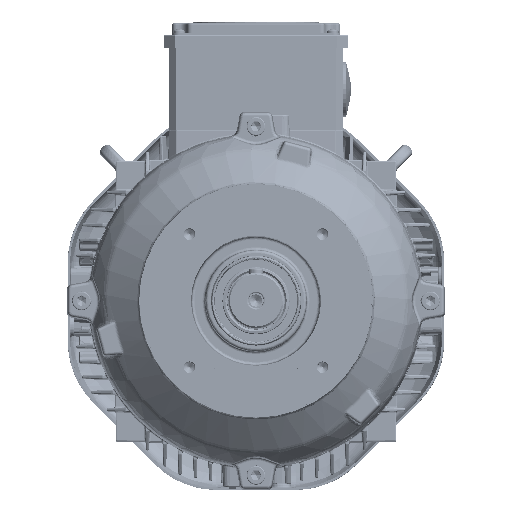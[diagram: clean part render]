
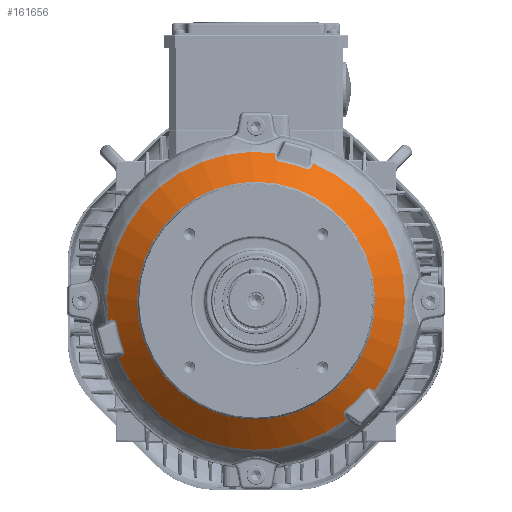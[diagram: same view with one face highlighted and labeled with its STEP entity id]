
A CAD part, top view. The second image highlights one B-rep face of the part: STEP entity #161656.
In plain terms, the highlighted conical face has half-angle 50 degrees and reference radius 102.868 mm.
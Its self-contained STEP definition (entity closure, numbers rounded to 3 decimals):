
#41842=B_SPLINE_CURVE_WITH_KNOTS('',3,(#339026,#339027,#339028,#339029,
#339030,#339031,#339032,#339033),.UNSPECIFIED.,.F.,.F.,(4,2,2,4),(0.,0.5,
0.75,1.),.UNSPECIFIED.);
#41843=B_SPLINE_CURVE_WITH_KNOTS('',3,(#339037,#339038,#339039,#339040,
#339041,#339042,#339043,#339044),.UNSPECIFIED.,.F.,.F.,(4,2,2,4),(0.,0.25,
0.5,1.),.UNSPECIFIED.);
#41844=B_SPLINE_CURVE_WITH_KNOTS('',3,(#339048,#339049,#339050,#339051,
#339052,#339053,#339054,#339055),.UNSPECIFIED.,.F.,.F.,(4,2,2,4),(0.,0.5,
0.75,1.),.UNSPECIFIED.);
#41845=B_SPLINE_CURVE_WITH_KNOTS('',3,(#339059,#339060,#339061,#339062,
#339063,#339064,#339065,#339066),.UNSPECIFIED.,.F.,.F.,(4,2,2,4),(0.,0.25,
0.5,1.),.UNSPECIFIED.);
#41846=B_SPLINE_CURVE_WITH_KNOTS('',3,(#339070,#339071,#339072,#339073,
#339074,#339075,#339076,#339077),.UNSPECIFIED.,.F.,.F.,(4,2,2,4),(0.,0.5,
0.75,1.),.UNSPECIFIED.);
#41847=B_SPLINE_CURVE_WITH_KNOTS('',3,(#339081,#339082,#339083,#339084,
#339085,#339086,#339087,#339088),.UNSPECIFIED.,.F.,.F.,(4,2,2,4),(0.,0.25,
0.5,1.),.UNSPECIFIED.);
#44855=CONICAL_SURFACE('',#209033,102.868,50.);
#56476=EDGE_LOOP('',(#81650,#81651,#81652,#81653,#81654,#81655,#81656,#81657,
#81658,#81659,#81660,#81661));
#56477=EDGE_LOOP('',(#81662));
#81650=ORIENTED_EDGE('',*,*,#134184,.T.);
#81651=ORIENTED_EDGE('',*,*,#134185,.T.);
#81652=ORIENTED_EDGE('',*,*,#134186,.T.);
#81653=ORIENTED_EDGE('',*,*,#134187,.T.);
#81654=ORIENTED_EDGE('',*,*,#134188,.T.);
#81655=ORIENTED_EDGE('',*,*,#134189,.T.);
#81656=ORIENTED_EDGE('',*,*,#134190,.T.);
#81657=ORIENTED_EDGE('',*,*,#134191,.T.);
#81658=ORIENTED_EDGE('',*,*,#134192,.T.);
#81659=ORIENTED_EDGE('',*,*,#134193,.T.);
#81660=ORIENTED_EDGE('',*,*,#134194,.T.);
#81661=ORIENTED_EDGE('',*,*,#134195,.T.);
#81662=ORIENTED_EDGE('',*,*,#134183,.F.);
#134183=EDGE_CURVE('',#179378,#179378,#195483,.T.);
#134184=EDGE_CURVE('',#179379,#179380,#195484,.T.);
#134185=EDGE_CURVE('',#179380,#179381,#41842,.T.);
#134186=EDGE_CURVE('',#179381,#179382,#195485,.T.);
#134187=EDGE_CURVE('',#179382,#179383,#41843,.T.);
#134188=EDGE_CURVE('',#179383,#179384,#195486,.T.);
#134189=EDGE_CURVE('',#179384,#179385,#41844,.T.);
#134190=EDGE_CURVE('',#179385,#179386,#195487,.T.);
#134191=EDGE_CURVE('',#179386,#179387,#41845,.T.);
#134192=EDGE_CURVE('',#179387,#179388,#195488,.T.);
#134193=EDGE_CURVE('',#179388,#179389,#41846,.T.);
#134194=EDGE_CURVE('',#179389,#179390,#195489,.T.);
#134195=EDGE_CURVE('',#179390,#179379,#41847,.T.);
#161656=ADVANCED_FACE('',(#173534,#173535),#44855,.T.);
#173534=FACE_BOUND('',#56476,.T.);
#173535=FACE_BOUND('',#56477,.T.);
#179378=VERTEX_POINT('',#339021);
#179379=VERTEX_POINT('',#339024);
#179380=VERTEX_POINT('',#339025);
#179381=VERTEX_POINT('',#339034);
#179382=VERTEX_POINT('',#339036);
#179383=VERTEX_POINT('',#339045);
#179384=VERTEX_POINT('',#339047);
#179385=VERTEX_POINT('',#339056);
#179386=VERTEX_POINT('',#339058);
#179387=VERTEX_POINT('',#339067);
#179388=VERTEX_POINT('',#339069);
#179389=VERTEX_POINT('',#339078);
#179390=VERTEX_POINT('',#339080);
#195483=CIRCLE('',#209025,82.239);
#195484=CIRCLE('',#209027,102.868);
#195485=CIRCLE('',#209028,97.45);
#195486=CIRCLE('',#209029,102.868);
#195487=CIRCLE('',#209030,97.45);
#195488=CIRCLE('',#209031,102.868);
#195489=CIRCLE('',#209032,97.45);
#209025=AXIS2_PLACEMENT_3D('',#339020,#238316,#238317);
#209027=AXIS2_PLACEMENT_3D('',#339023,#238320,#238321);
#209028=AXIS2_PLACEMENT_3D('',#339035,#238322,#238323);
#209029=AXIS2_PLACEMENT_3D('',#339046,#238324,#238325);
#209030=AXIS2_PLACEMENT_3D('',#339057,#238326,#238327);
#209031=AXIS2_PLACEMENT_3D('',#339068,#238328,#238329);
#209032=AXIS2_PLACEMENT_3D('',#339079,#238330,#238331);
#209033=AXIS2_PLACEMENT_3D('',#339089,#238332,#238333);
#238316=DIRECTION('',(0.,0.,1.));
#238317=DIRECTION('',(-1.,0.,0.));
#238320=DIRECTION('',(0.,0.,1.));
#238321=DIRECTION('',(-1.,0.,0.));
#238322=DIRECTION('',(0.,0.,1.));
#238323=DIRECTION('',(-1.,0.,0.));
#238324=DIRECTION('',(0.,0.,1.));
#238325=DIRECTION('',(-1.,0.,0.));
#238326=DIRECTION('',(0.,0.,1.));
#238327=DIRECTION('',(0.,-1.,0.));
#238328=DIRECTION('',(0.,0.,1.));
#238329=DIRECTION('',(-1.,0.,0.));
#238330=DIRECTION('',(0.,0.,1.));
#238331=DIRECTION('',(0.,-1.,0.));
#238332=DIRECTION('',(0.,0.,-1.));
#238333=DIRECTION('',(1.,0.,0.));
#339020=CARTESIAN_POINT('',(-0.001,-0.005,55.961));
#339021=CARTESIAN_POINT('',(-82.24,-0.005,55.961));
#339023=CARTESIAN_POINT('',(-0.001,-0.005,38.651));
#339024=CARTESIAN_POINT('',(13.29,102.001,38.646));
#339025=CARTESIAN_POINT('',(-102.007,-13.296,38.652));
#339026=CARTESIAN_POINT('',(-102.007,-13.296,38.652));
#339027=CARTESIAN_POINT('',(-100.922,-12.89,39.6));
#339028=CARTESIAN_POINT('',(-99.767,-12.721,40.579));
#339029=CARTESIAN_POINT('',(-98.062,-13.225,41.942));
#339030=CARTESIAN_POINT('',(-97.498,-13.535,42.377));
#339031=CARTESIAN_POINT('',(-96.583,-14.538,43.016));
#339032=CARTESIAN_POINT('',(-96.258,-15.233,43.198));
#339033=CARTESIAN_POINT('',(-96.134,-15.98,43.198));
#339034=CARTESIAN_POINT('',(-96.134,-15.98,43.198));
#339035=CARTESIAN_POINT('',(-0.001,-0.005,43.197));
#339036=CARTESIAN_POINT('',(-91.241,-34.237,43.199));
#339037=CARTESIAN_POINT('',(-91.241,-34.237,43.199));
#339038=CARTESIAN_POINT('',(-90.976,-34.944,43.199));
#339039=CARTESIAN_POINT('',(-90.909,-35.701,43.02));
#339040=CARTESIAN_POINT('',(-91.2,-37.035,42.379));
#339041=CARTESIAN_POINT('',(-91.53,-37.58,41.949));
#339042=CARTESIAN_POINT('',(-92.749,-38.87,40.59));
#339043=CARTESIAN_POINT('',(-93.843,-39.307,39.601));
#339044=CARTESIAN_POINT('',(-94.987,-39.498,38.653));
#339045=CARTESIAN_POINT('',(-94.987,-39.498,38.653));
#339046=CARTESIAN_POINT('',(-0.001,-0.005,38.651));
#339047=CARTESIAN_POINT('',(62.512,-81.7,38.653));
#339048=CARTESIAN_POINT('',(62.512,-81.7,38.653));
#339049=CARTESIAN_POINT('',(61.618,-80.962,39.601));
#339050=CARTESIAN_POINT('',(60.894,-80.047,40.58));
#339051=CARTESIAN_POINT('',(60.478,-78.318,41.943));
#339052=CARTESIAN_POINT('',(60.464,-77.675,42.378));
#339053=CARTESIAN_POINT('',(60.876,-76.381,43.017));
#339054=CARTESIAN_POINT('',(61.314,-75.752,43.199));
#339055=CARTESIAN_POINT('',(61.899,-75.271,43.199));
#339056=CARTESIAN_POINT('',(61.899,-75.271,43.199));
#339057=CARTESIAN_POINT('',(-0.001,-0.005,43.197));
#339058=CARTESIAN_POINT('',(75.264,-61.906,43.199));
#339059=CARTESIAN_POINT('',(75.264,-61.906,43.199));
#339060=CARTESIAN_POINT('',(75.744,-61.322,43.199));
#339061=CARTESIAN_POINT('',(76.366,-60.886,43.02));
#339062=CARTESIAN_POINT('',(77.667,-60.47,42.378));
#339063=CARTESIAN_POINT('',(78.304,-60.483,41.948));
#339064=CARTESIAN_POINT('',(80.03,-60.895,40.589));
#339065=CARTESIAN_POINT('',(80.956,-61.624,39.6));
#339066=CARTESIAN_POINT('',(81.693,-62.519,38.652));
#339067=CARTESIAN_POINT('',(81.693,-62.519,38.652));
#339068=CARTESIAN_POINT('',(-0.001,-0.005,38.651));
#339069=CARTESIAN_POINT('',(39.491,94.98,38.646));
#339070=CARTESIAN_POINT('',(39.491,94.98,38.646));
#339071=CARTESIAN_POINT('',(39.3,93.837,39.593));
#339072=CARTESIAN_POINT('',(38.87,92.753,40.573));
#339073=CARTESIAN_POINT('',(37.581,91.528,41.936));
#339074=CARTESIAN_POINT('',(37.03,91.195,42.37));
#339075=CARTESIAN_POINT('',(35.704,90.904,43.01));
#339076=CARTESIAN_POINT('',(34.939,90.969,43.192));
#339077=CARTESIAN_POINT('',(34.231,91.235,43.192));
#339078=CARTESIAN_POINT('',(34.231,91.235,43.192));
#339079=CARTESIAN_POINT('',(-0.001,-0.005,43.197));
#339080=CARTESIAN_POINT('',(15.973,96.127,43.192));
#339081=CARTESIAN_POINT('',(15.973,96.127,43.192));
#339082=CARTESIAN_POINT('',(15.228,96.251,43.192));
#339083=CARTESIAN_POINT('',(14.539,96.572,43.013));
#339084=CARTESIAN_POINT('',(13.529,97.49,42.372));
#339085=CARTESIAN_POINT('',(13.222,98.048,41.941));
#339086=CARTESIAN_POINT('',(12.715,99.749,40.583));
#339087=CARTESIAN_POINT('',(12.884,100.915,39.593));
#339088=CARTESIAN_POINT('',(13.29,102.001,38.646));
#339089=CARTESIAN_POINT('',(-0.001,-0.005,38.651));
